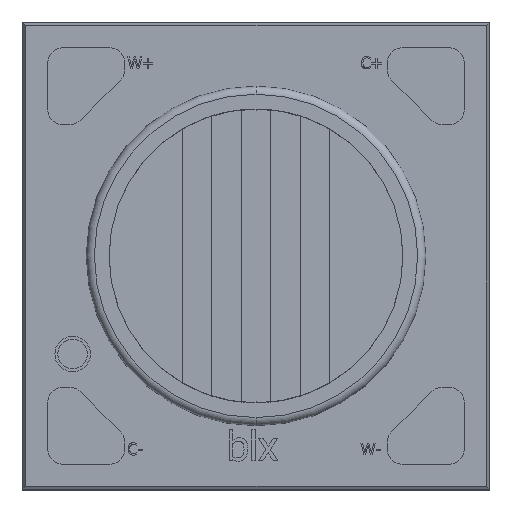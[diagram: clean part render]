
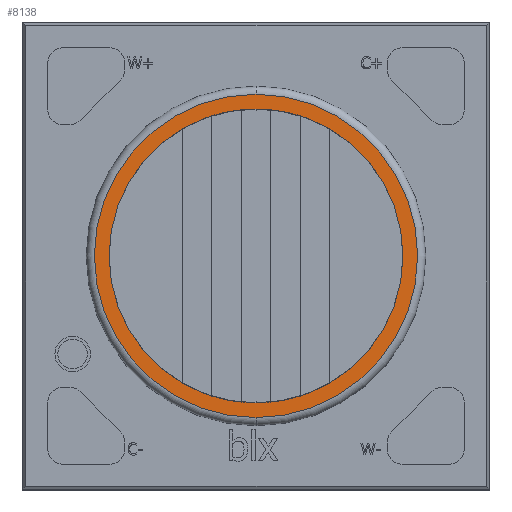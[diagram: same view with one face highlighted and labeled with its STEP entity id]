
A CAD part, top view. The second image highlights one B-rep face of the part: STEP entity #8138.
In plain terms, the highlighted planar face has unit normal (0, 0, 1).
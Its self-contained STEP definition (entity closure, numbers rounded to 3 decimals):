
#22 = DIRECTION ( 'NONE',  ( 0., 0., -1. ) ) ;
#328 = VERTEX_POINT ( 'NONE', #3101 ) ;
#498 = CIRCLE ( 'NONE', #1826, 4.975 ) ;
#633 = EDGE_LOOP ( 'NONE', ( #12777, #7943 ) ) ;
#1259 = AXIS2_PLACEMENT_3D ( 'NONE', #8222, #2212, #9224 ) ;
#1826 = AXIS2_PLACEMENT_3D ( 'NONE', #6037, #22, #7052 ) ;
#2212 = DIRECTION ( 'NONE',  ( 0., 0., -1. ) ) ;
#2415 = ORIENTED_EDGE ( 'NONE', *, *, #10840, .T. ) ;
#2514 = PLANE ( 'NONE',  #7015 ) ;
#2607 = CARTESIAN_POINT ( 'NONE',  ( 0., 5.475, 1.545 ) ) ;
#2673 = CIRCLE ( 'NONE', #12693, 5.475 ) ;
#3086 = DIRECTION ( 'NONE',  ( 0., 1., 0. ) ) ;
#3101 = CARTESIAN_POINT ( 'NONE',  ( 0., -4.975, 1.545 ) ) ;
#4383 = CARTESIAN_POINT ( 'NONE',  ( 0., 0., 1.545 ) ) ;
#4415 = CARTESIAN_POINT ( 'NONE',  ( -4.975, 0., 1.545 ) ) ;
#4597 = ORIENTED_EDGE ( 'NONE', *, *, #11623, .T. ) ;
#5259 = CARTESIAN_POINT ( 'NONE',  ( 0., 0., 1.545 ) ) ;
#5401 = DIRECTION ( 'NONE',  ( 0., 1., 0. ) ) ;
#5523 = CARTESIAN_POINT ( 'NONE',  ( 0., 4.975, 1.545 ) ) ;
#6037 = CARTESIAN_POINT ( 'NONE',  ( 0., 0., 1.545 ) ) ;
#6273 = DIRECTION ( 'NONE',  ( 0., 1., 0. ) ) ;
#6836 = CIRCLE ( 'NONE', #11442, 5.475 ) ;
#7015 = AXIS2_PLACEMENT_3D ( 'NONE', #4415, #11063, #3086 ) ;
#7052 = DIRECTION ( 'NONE',  ( 0., 1., 0. ) ) ;
#7060 = EDGE_LOOP ( 'NONE', ( #4597, #2415 ) ) ;
#7299 = FACE_OUTER_BOUND ( 'NONE', #633, .T. ) ;
#7943 = ORIENTED_EDGE ( 'NONE', *, *, #11297, .F. ) ;
#8056 = VERTEX_POINT ( 'NONE', #2607 ) ;
#8138 = ADVANCED_FACE ( 'NONE', ( #7299, #12055 ), #2514, .F. ) ;
#8222 = CARTESIAN_POINT ( 'NONE',  ( 0., 0., 1.545 ) ) ;
#8757 = CIRCLE ( 'NONE', #1259, 4.975 ) ;
#8867 = VERTEX_POINT ( 'NONE', #5523 ) ;
#9224 = DIRECTION ( 'NONE',  ( 0., 1., 0. ) ) ;
#10840 = EDGE_CURVE ( 'NONE', #328, #8867, #8757, .T. ) ;
#11063 = DIRECTION ( 'NONE',  ( 0., 0., -1. ) ) ;
#11297 = EDGE_CURVE ( 'NONE', #12348, #8056, #6836, .T. ) ;
#11342 = EDGE_CURVE ( 'NONE', #8056, #12348, #2673, .T. ) ;
#11359 = DIRECTION ( 'NONE',  ( 0., 0., -1. ) ) ;
#11442 = AXIS2_PLACEMENT_3D ( 'NONE', #5259, #12219, #6273 ) ;
#11623 = EDGE_CURVE ( 'NONE', #8867, #328, #498, .T. ) ;
#12055 = FACE_BOUND ( 'NONE', #7060, .T. ) ;
#12219 = DIRECTION ( 'NONE',  ( 0., 0., -1. ) ) ;
#12348 = VERTEX_POINT ( 'NONE', #12798 ) ;
#12693 = AXIS2_PLACEMENT_3D ( 'NONE', #4383, #11359, #5401 ) ;
#12777 = ORIENTED_EDGE ( 'NONE', *, *, #11342, .F. ) ;
#12798 = CARTESIAN_POINT ( 'NONE',  ( 0., -5.475, 1.545 ) ) ;
